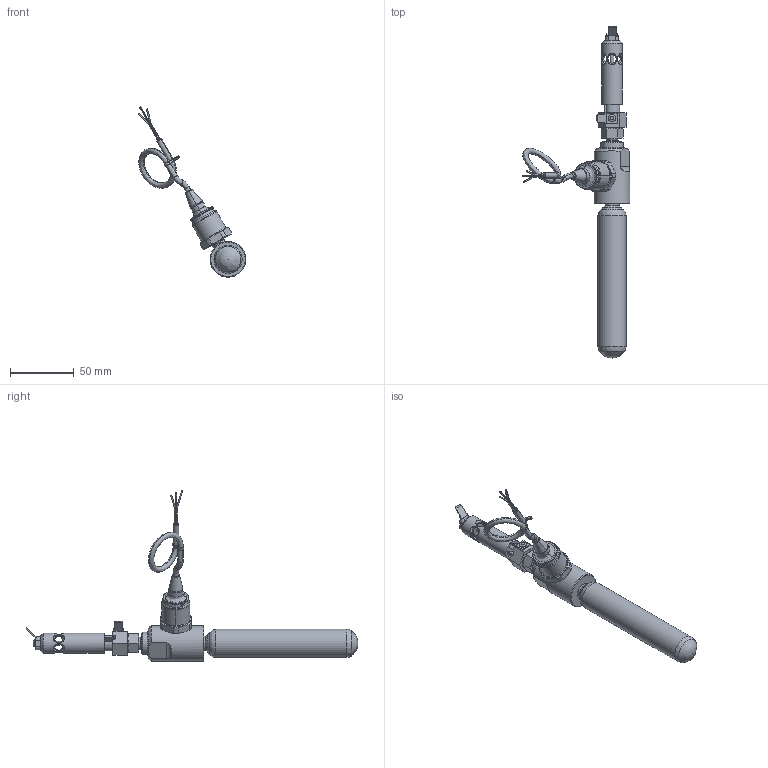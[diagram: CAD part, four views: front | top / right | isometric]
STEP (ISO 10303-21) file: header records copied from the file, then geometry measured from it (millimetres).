
FILE_DESCRIPTION(/* description */ (''),/* implementation_level */ '2;1');
FILE_NAME(/* name */ '40-057-20-31-00 - S-AMFE & R-AMFE - cylinder size 0 and pressure sensor (cable).stp',/* time_stamp */ '2025-03-26T16:17:54+01:00',/* author */ ('ASc'),/* organization */ (''),/* preprocessor_version */ 'ST-DEVELOPER v19.2',/* originating_system */ 'Autodesk Inventor 2023',/* authorisation */ '');
FILE_SCHEMA (('AUTOMOTIVE_DESIGN { 1 0 10303 214 3 1 1 }'));
Length unit declared in the file: millimetre
Products named in the file (1): 40-057-20-31-00_Vereinfachen_1
Bounding box: 84.6 x 260.7 x 133.69 mm (x, y, z)
Volume: 100544.4 mm3; surface area: 25777.7 mm2
Topology: 1 solids, 1 shells, 286 faces, 790 edges, 513 vertices
Faces by surface type: bspline 117, plane 106, cylinder 31, cone 29, torus 3
Full cylindrical faces by diameter (mm): 2.9 x1, 5.7 x2, 6.5 x6, 9.4 x1, 11 x1, 11.9 x1, 12 x1, 12.5 x1, 15 x1, 16 x1, 17.5 x1, 22.102 x1, 28 x1
Entity records: 17808 total; most frequent: CARTESIAN_POINT 10853, ORIENTED_EDGE 1576, DIRECTION 1008, EDGE_CURVE 788, VERTEX_POINT 513, AXIS2_PLACEMENT_3D 374, EDGE_LOOP 317, B_SPLINE_CURVE_WITH_KNOTS 294
